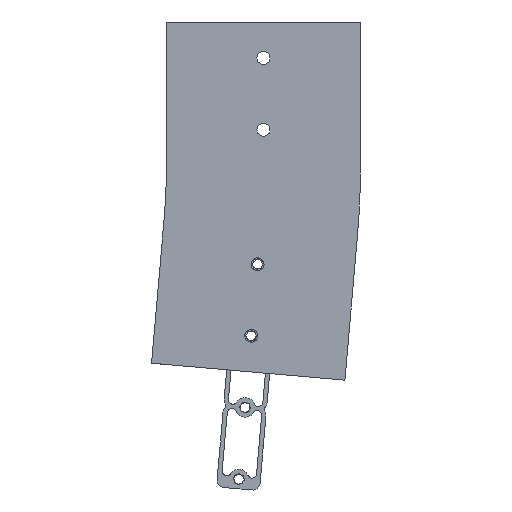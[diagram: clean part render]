
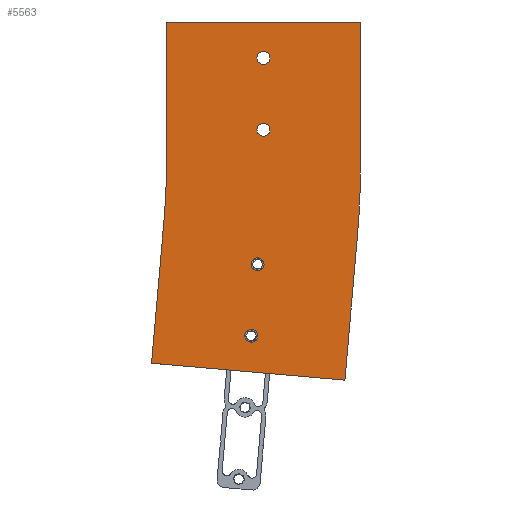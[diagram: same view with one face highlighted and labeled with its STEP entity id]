
A CAD part, left-side view. The second image highlights one B-rep face of the part: STEP entity #5563.
In plain terms, the highlighted planar face has unit normal (-1, 0, 0).
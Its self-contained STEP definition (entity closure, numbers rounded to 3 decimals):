
#779 = ORIENTED_EDGE ( 'NONE', *, *, #8115, .F. ) ;
#780 = ORIENTED_EDGE ( 'NONE', *, *, #8021, .F. ) ;
#781 = ORIENTED_EDGE ( 'NONE', *, *, #8114, .F. ) ;
#782 = ORIENTED_EDGE ( 'NONE', *, *, #8025, .F. ) ;
#783 = ORIENTED_EDGE ( 'NONE', *, *, #8111, .F. ) ;
#784 = ORIENTED_EDGE ( 'NONE', *, *, #8029, .F. ) ;
#785 = ORIENTED_EDGE ( 'NONE', *, *, #8109, .F. ) ;
#786 = ORIENTED_EDGE ( 'NONE', *, *, #8033, .F. ) ;
#787 = ORIENTED_EDGE ( 'NONE', *, *, #8116, .F. ) ;
#790 = ORIENTED_EDGE ( 'NONE', *, *, #8106, .F. ) ;
#791 = ORIENTED_EDGE ( 'NONE', *, *, #8063, .T. ) ;
#792 = ORIENTED_EDGE ( 'NONE', *, *, #8066, .T. ) ;
#793 = ORIENTED_EDGE ( 'NONE', *, *, #8117, .T. ) ;
#794 = ORIENTED_EDGE ( 'NONE', *, *, #8058, .F. ) ;
#795 = ORIENTED_EDGE ( 'NONE', *, *, #8056, .F. ) ;
#796 = ORIENTED_EDGE ( 'NONE', *, *, #8054, .T. ) ;
#1204 = EDGE_LOOP ( 'NONE', ( #785, #786 ) ) ;
#1205 = EDGE_LOOP ( 'NONE', ( #787, #790, #791, #792, #793, #794, #795, #796 ) ) ;
#1206 = EDGE_LOOP ( 'NONE', ( #781, #782 ) ) ;
#1207 = EDGE_LOOP ( 'NONE', ( #783, #784 ) ) ;
#1209 = EDGE_LOOP ( 'NONE', ( #779, #780 ) ) ;
#1545 = DIRECTION ( 'NONE',  ( 0., 0., 1. ) ) ;
#1548 = DIRECTION ( 'NONE',  ( -1., 0., 0. ) ) ;
#1552 = CARTESIAN_POINT ( 'NONE',  ( -59., 8.439, -218.292 ) ) ;
#1592 = DIRECTION ( 'NONE',  ( 0., 0., 1. ) ) ;
#1596 = DIRECTION ( 'NONE',  ( -1., 0., 0. ) ) ;
#1599 = CARTESIAN_POINT ( 'NONE',  ( -59., 4.082, -168.483 ) ) ;
#1639 = DIRECTION ( 'NONE',  ( 0., 0., 1. ) ) ;
#1643 = DIRECTION ( 'NONE',  ( -1., 0., 0. ) ) ;
#1646 = CARTESIAN_POINT ( 'NONE',  ( -59., 0., -25. ) ) ;
#1808 = DIRECTION ( 'NONE',  ( 0., -0.996, -0.087 ) ) ;
#1809 = CARTESIAN_POINT ( 'NONE',  ( -59., -56.625, -249.08 ) ) ;
#1810 = DIRECTION ( 'NONE',  ( 0., -1., 0. ) ) ;
#1811 = CARTESIAN_POINT ( 'NONE',  ( -59., -67.5, 0. ) ) ;
#1812 = DIRECTION ( 'NONE',  ( 0., 0., 1. ) ) ;
#1813 = DIRECTION ( 'NONE',  ( -1., 0., 0. ) ) ;
#1814 = CARTESIAN_POINT ( 'NONE',  ( -59., 0., -75. ) ) ;
#1815 = DIRECTION ( 'NONE',  ( 0., 0., 1. ) ) ;
#1816 = DIRECTION ( 'NONE',  ( -1., 0., 0. ) ) ;
#1817 = CARTESIAN_POINT ( 'NONE',  ( -59., 0., -25. ) ) ;
#1824 = DIRECTION ( 'NONE',  ( 0., 0., 1. ) ) ;
#1825 = DIRECTION ( 'NONE',  ( -1., 0., 0. ) ) ;
#1826 = CARTESIAN_POINT ( 'NONE',  ( -59., 4.082, -168.483 ) ) ;
#1830 = DIRECTION ( 'NONE',  ( 0., 0., 1. ) ) ;
#1831 = DIRECTION ( 'NONE',  ( -1., 0., 0. ) ) ;
#1832 = CARTESIAN_POINT ( 'NONE',  ( -59., 8.439, -218.292 ) ) ;
#1838 = DIRECTION ( 'NONE',  ( 0., 0., 1. ) ) ;
#1839 = CARTESIAN_POINT ( 'NONE',  ( -59., 67.5, -100. ) ) ;
#1924 = DIRECTION ( 'NONE',  ( 0., 0.087, -0.996 ) ) ;
#1925 = CARTESIAN_POINT ( 'NONE',  ( -59., 69.146, -137.695 ) ) ;
#1930 = DIRECTION ( 'NONE',  ( 0., 0., -1. ) ) ;
#1931 = DIRECTION ( 'NONE',  ( 1., 0., 0. ) ) ;
#1932 = CARTESIAN_POINT ( 'NONE',  ( -59., 500., -100. ) ) ;
#1942 = DIRECTION ( 'NONE',  ( 0., 0.087, -0.996 ) ) ;
#1943 = CARTESIAN_POINT ( 'NONE',  ( -59., -65.34, -149.461 ) ) ;
#1946 = DIRECTION ( 'NONE',  ( 0., 0., -1. ) ) ;
#1947 = DIRECTION ( 'NONE',  ( 1., 0., 0. ) ) ;
#1948 = CARTESIAN_POINT ( 'NONE',  ( -59., 500., -100. ) ) ;
#1951 = DIRECTION ( 'NONE',  ( 0., 0., 1. ) ) ;
#1952 = CARTESIAN_POINT ( 'NONE',  ( -59., -67.5, -100. ) ) ;
#2187 = AXIS2_PLACEMENT_3D ( 'NONE', #5172, #5167, #5166 ) ;
#2292 = AXIS2_PLACEMENT_3D ( 'NONE', #4943, #4942, #4941 ) ;
#2294 = AXIS2_PLACEMENT_3D ( 'NONE', #1646, #1643, #1639 ) ;
#2296 = AXIS2_PLACEMENT_3D ( 'NONE', #1599, #1596, #1592 ) ;
#2298 = AXIS2_PLACEMENT_3D ( 'NONE', #1552, #1548, #1545 ) ;
#2304 = AXIS2_PLACEMENT_3D ( 'NONE', #1948, #1947, #1946 ) ;
#2306 = AXIS2_PLACEMENT_3D ( 'NONE', #1932, #1931, #1930 ) ;
#2314 = AXIS2_PLACEMENT_3D ( 'NONE', #1832, #1831, #1830 ) ;
#2316 = AXIS2_PLACEMENT_3D ( 'NONE', #1826, #1825, #1824 ) ;
#2319 = AXIS2_PLACEMENT_3D ( 'NONE', #1817, #1816, #1815 ) ;
#2320 = AXIS2_PLACEMENT_3D ( 'NONE', #1814, #1813, #1812 ) ;
#2420 = VERTEX_POINT ( 'NONE', #7891 ) ;
#2429 = VERTEX_POINT ( 'NONE', #7882 ) ;
#2469 = VERTEX_POINT ( 'NONE', #7842 ) ;
#2470 = VERTEX_POINT ( 'NONE', #7841 ) ;
#2471 = VERTEX_POINT ( 'NONE', #7840 ) ;
#2648 = VERTEX_POINT ( 'NONE', #7663 ) ;
#2651 = VERTEX_POINT ( 'NONE', #7660 ) ;
#2721 = VERTEX_POINT ( 'NONE', #7590 ) ;
#2738 = VERTEX_POINT ( 'NONE', #7573 ) ;
#2742 = VERTEX_POINT ( 'NONE', #7569 ) ;
#2779 = VERTEX_POINT ( 'NONE', #7532 ) ;
#2793 = VERTEX_POINT ( 'NONE', #7518 ) ;
#2801 = VERTEX_POINT ( 'NONE', #7510 ) ;
#2805 = VERTEX_POINT ( 'NONE', #7506 ) ;
#2825 = VERTEX_POINT ( 'NONE', #7477 ) ;
#2832 = VERTEX_POINT ( 'NONE', #7467 ) ;
#2890 = CIRCLE ( 'NONE', #2298, 4.5 ) ;
#2897 = CIRCLE ( 'NONE', #2296, 4.5 ) ;
#2903 = CIRCLE ( 'NONE', #2294, 4.5 ) ;
#2909 = CIRCLE ( 'NONE', #2292, 4.5 ) ;
#4941 = DIRECTION ( 'NONE',  ( 0., 0., 1. ) ) ;
#4942 = DIRECTION ( 'NONE',  ( -1., 0., 0. ) ) ;
#4943 = CARTESIAN_POINT ( 'NONE',  ( -59., 0., -75. ) ) ;
#5166 = DIRECTION ( 'NONE',  ( 0., 0., 1. ) ) ;
#5167 = DIRECTION ( 'NONE',  ( -1., 0., 0. ) ) ;
#5172 = CARTESIAN_POINT ( 'NONE',  ( -59., -67.5, -100. ) ) ;
#5173 = PLANE ( 'NONE',  #2187 ) ;
#5563 = ADVANCED_FACE ( 'NONE', ( #5758, #5757, #5756, #5755, #5754 ), #5173, .T. ) ;
#5754 = FACE_OUTER_BOUND ( 'NONE', #1205, .T. ) ;
#5755 = FACE_BOUND ( 'NONE', #1204, .T. ) ;
#5756 = FACE_BOUND ( 'NONE', #1207, .T. ) ;
#5757 = FACE_BOUND ( 'NONE', #1206, .T. ) ;
#5758 = FACE_BOUND ( 'NONE', #1209, .T. ) ;
#7003 = VECTOR ( 'NONE', #1924, 1000. ) ;
#7006 = LINE ( 'NONE', #1925, #7003 ) ;
#7072 = VECTOR ( 'NONE', #1808, 1000. ) ;
#7073 = LINE ( 'NONE', #1809, #7072 ) ;
#7074 = VECTOR ( 'NONE', #1810, 1000. ) ;
#7075 = CIRCLE ( 'NONE', #2320, 4.5 ) ;
#7076 = LINE ( 'NONE', #1811, #7074 ) ;
#7077 = CIRCLE ( 'NONE', #2319, 4.5 ) ;
#7080 = CIRCLE ( 'NONE', #2316, 4.5 ) ;
#7082 = CIRCLE ( 'NONE', #2314, 4.5 ) ;
#7086 = VECTOR ( 'NONE', #1838, 1000. ) ;
#7087 = LINE ( 'NONE', #1839, #7086 ) ;
#7156 = CIRCLE ( 'NONE', #2306, 432.5 ) ;
#7165 = VECTOR ( 'NONE', #1942, 1000. ) ;
#7166 = LINE ( 'NONE', #1943, #7165 ) ;
#7168 = CIRCLE ( 'NONE', #2304, 567.5 ) ;
#7172 = VECTOR ( 'NONE', #1951, 1000. ) ;
#7173 = LINE ( 'NONE', #1952, #7172 ) ;
#7467 = CARTESIAN_POINT ( 'NONE',  ( -59., 8.439, -213.792 ) ) ;
#7477 = CARTESIAN_POINT ( 'NONE',  ( -59., 8.439, -222.792 ) ) ;
#7506 = CARTESIAN_POINT ( 'NONE',  ( -59., 4.082, -163.983 ) ) ;
#7510 = CARTESIAN_POINT ( 'NONE',  ( -59., 4.082, -172.983 ) ) ;
#7518 = CARTESIAN_POINT ( 'NONE',  ( -59., 67.5, 0. ) ) ;
#7532 = CARTESIAN_POINT ( 'NONE',  ( -59., 0., -29.5 ) ) ;
#7569 = CARTESIAN_POINT ( 'NONE',  ( -59., 0., -20.5 ) ) ;
#7573 = CARTESIAN_POINT ( 'NONE',  ( -59., -56.625, -249.08 ) ) ;
#7590 = CARTESIAN_POINT ( 'NONE',  ( -59., -67.5, -100. ) ) ;
#7660 = CARTESIAN_POINT ( 'NONE',  ( -59., -67.5, 0. ) ) ;
#7663 = CARTESIAN_POINT ( 'NONE',  ( -59., -65.34, -149.461 ) ) ;
#7840 = CARTESIAN_POINT ( 'NONE',  ( -59., 0., -79.5 ) ) ;
#7841 = CARTESIAN_POINT ( 'NONE',  ( -59., 0., -70.5 ) ) ;
#7842 = CARTESIAN_POINT ( 'NONE',  ( -59., 67.5, -100. ) ) ;
#7882 = CARTESIAN_POINT ( 'NONE',  ( -59., 77.861, -237.314 ) ) ;
#7891 = CARTESIAN_POINT ( 'NONE',  ( -59., 69.146, -137.695 ) ) ;
#8021 = EDGE_CURVE ( 'NONE', #2471, #2470, #2909, .T. ) ;
#8025 = EDGE_CURVE ( 'NONE', #2779, #2742, #2903, .T. ) ;
#8029 = EDGE_CURVE ( 'NONE', #2801, #2805, #2897, .T. ) ;
#8033 = EDGE_CURVE ( 'NONE', #2825, #2832, #2890, .T. ) ;
#8054 = EDGE_CURVE ( 'NONE', #2721, #2651, #7173, .T. ) ;
#8056 = EDGE_CURVE ( 'NONE', #2721, #2648, #7168, .T. ) ;
#8058 = EDGE_CURVE ( 'NONE', #2648, #2738, #7166, .T. ) ;
#8063 = EDGE_CURVE ( 'NONE', #2469, #2420, #7156, .T. ) ;
#8066 = EDGE_CURVE ( 'NONE', #2420, #2429, #7006, .T. ) ;
#8106 = EDGE_CURVE ( 'NONE', #2469, #2793, #7087, .T. ) ;
#8109 = EDGE_CURVE ( 'NONE', #2832, #2825, #7082, .T. ) ;
#8111 = EDGE_CURVE ( 'NONE', #2805, #2801, #7080, .T. ) ;
#8114 = EDGE_CURVE ( 'NONE', #2742, #2779, #7077, .T. ) ;
#8115 = EDGE_CURVE ( 'NONE', #2470, #2471, #7075, .T. ) ;
#8116 = EDGE_CURVE ( 'NONE', #2793, #2651, #7076, .T. ) ;
#8117 = EDGE_CURVE ( 'NONE', #2429, #2738, #7073, .T. ) ;
